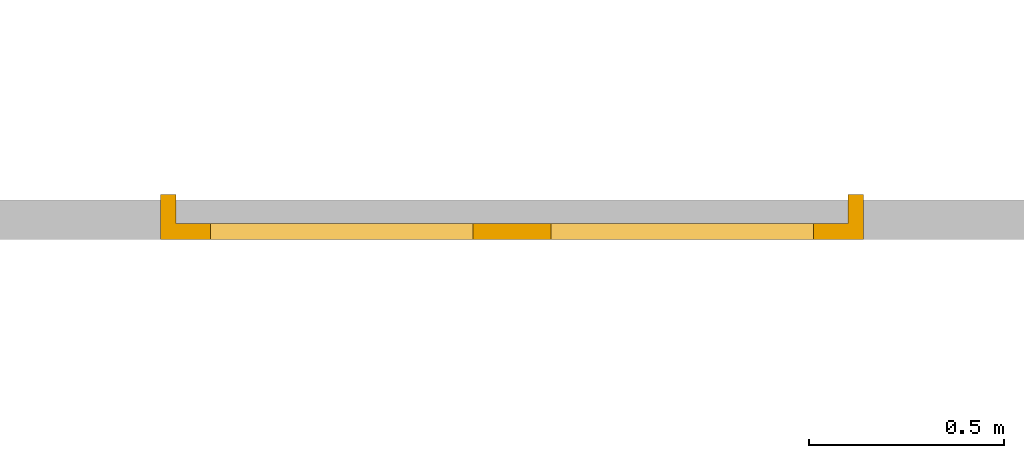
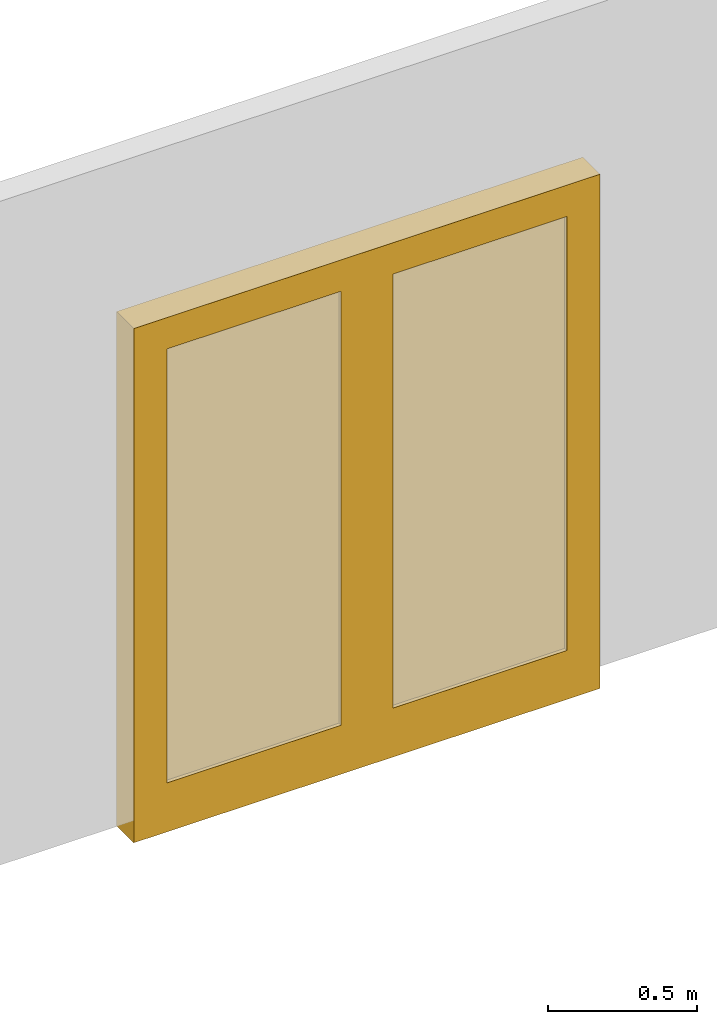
# One storey, part 6 of 22: 1 door.
"""IFC2X3 building model written with IfcOpenShell, lengths in millimetres."""

import ifcopenshell
import ifcopenshell.guid

model = None  # the IFC model being written
_history = None  # IfcOwnerHistory: only IFC2X3 demands one
_inside = {}  # id of a spatial element -> (the spatial element, [elements in it])
_under = {}  # id of a project, library or spatial element -> (it, [spatial elements below it])
_declared = {}  # id of a project -> (the project, [libraries it declares])
_typed = {}  # id of a type object -> (the type object, [elements of that type])
_made_of = {}  # id of a material, layer set ... -> (it, [elements and type objects made of it])


def new_model(schema):
    """Start an empty IFC model of exactly this schema.

    Asked for "IFC4X3", IfcOpenShell would pick the latest addendum, in which some entities
    have other attributes; the version numbers below select the first issue.
    IFC2X3 requires an IfcOwnerHistory on every rooted entity: one is made here for all.
    """
    global model, _history
    if schema == "IFC4X3":
        model = ifcopenshell.file(schema_version=(4, 3, 0, 0))
    else:
        model = ifcopenshell.file(schema=schema)
    _inside.clear()
    _under.clear()
    _declared.clear()
    _typed.clear()
    _made_of.clear()
    _history = None
    if model.schema == "IFC2X3":
        org = make("IfcOrganization", Name="unknown")
        user = make(
            "IfcPersonAndOrganization",
            ThePerson=make("IfcPerson", FamilyName="unknown"),
            TheOrganization=org,
        )
        app = make(
            "IfcApplication",
            ApplicationDeveloper=org,
            Version="unknown",
            ApplicationFullName="unknown",
            ApplicationIdentifier="unknown",
        )
        _history = make(
            "IfcOwnerHistory",
            OwningUser=user,
            OwningApplication=app,
            ChangeAction="ADDED",
            CreationDate=0,
        )
    return model


def make(cls, **values):
    """One entity of the class cls with the attributes given. An attribute that is None is left unset."""
    return model.create_entity(
        cls, **{name: value for name, value in values.items() if value is not None}
    )


def entity(cls, *values):
    """Any entity or typed value of the class cls, its attributes in the order of the schema. None: left unset."""
    e = model.create_entity(cls)
    for i, value in enumerate(values):
        if value is not None:
            e[i] = value
    return e


def rooted(cls, **values):
    """An entity with a GlobalId (a new one), such as an element, a storey or a relation."""
    return make(cls, GlobalId=ifcopenshell.guid.new(), OwnerHistory=_history, **values)


def si_unit(unit_type, name, prefix=None):
    """IfcSIUnit, for example si_unit("LENGTHUNIT", "METRE", prefix="MILLI")."""
    return make("IfcSIUnit", UnitType=unit_type, Prefix=prefix, Name=name)


def converted_unit(unit_type, name, factor, base, dimensions=None, offset=None):
    """IfcConversionBasedUnit, such as the inch: factor (a typed value) times the base unit."""
    return make(
        "IfcConversionBasedUnit"
        if offset is None
        else "IfcConversionBasedUnitWithOffset",
        ConversionOffset=offset,
        Dimensions=None
        if dimensions is None
        else entity("IfcDimensionalExponents", *dimensions),
        UnitType=unit_type,
        Name=name,
        ConversionFactor=make(
            "IfcMeasureWithUnit", ValueComponent=factor, UnitComponent=base
        ),
    )


def derived_unit(unit_type, elements):
    """IfcDerivedUnit: a product of units, each with its exponent."""
    return make(
        "IfcDerivedUnit",
        Elements=[
            make("IfcDerivedUnitElement", Unit=unit, Exponent=power)
            for unit, power in elements
        ],
        UnitType=unit_type,
    )


def assignment(units):
    """IfcUnitAssignment: the units of a project."""
    return None if units is None else make("IfcUnitAssignment", Units=units)


def point(xyz):
    """IfcCartesianPoint."""
    return None if xyz is None else make("IfcCartesianPoint", Coordinates=xyz)


def direction(xyz):
    """IfcDirection."""
    return None if xyz is None else make("IfcDirection", DirectionRatios=xyz)


def frame(location, z_axis=None, x_axis=None):
    """IfcAxis2Placement3D, a coordinate frame: its origin and axes. An axis left out is left unset."""
    return make(
        "IfcAxis2Placement3D",
        Location=point(location),
        Axis=direction(z_axis),
        RefDirection=direction(x_axis),
    )


def origin():
    """The frame at (0, 0, 0) with its axes left unset."""
    return frame((0.0, 0.0, 0.0))


def place(relative_to, where):
    """IfcLocalPlacement: puts the frame where relative to a parent placement (None: the world)."""
    return make(
        "IfcLocalPlacement", PlacementRelTo=relative_to, RelativePlacement=where
    )


def context(
    kind, dimensions, precision=None, world=None, true_north=None, identifier=None
):
    """IfcGeometricRepresentationContext, for example the 3D "Model" context."""
    return make(
        "IfcGeometricRepresentationContext",
        ContextIdentifier=identifier,
        ContextType=kind,
        CoordinateSpaceDimension=dimensions,
        Precision=precision,
        WorldCoordinateSystem=world,
        TrueNorth=true_north,
    )


def subcontext(parent, identifier, kind, view, scale=None):
    """IfcGeometricRepresentationSubContext, for example "Body" below "Model"."""
    return make(
        "IfcGeometricRepresentationSubContext",
        ContextIdentifier=identifier,
        ContextType=kind,
        ParentContext=parent,
        TargetScale=scale,
        TargetView=view,
    )


def project(units=None, contexts=None):
    """IfcProject with its units and contexts."""
    return rooted(
        "IfcProject",
        Name="project",
        RepresentationContexts=contexts,
        UnitsInContext=assignment(units),
    )


def spatial(cls, under=None, at=None, **own):
    """A site, building, storey or space (cls), placed at a placement, below another one or the project."""
    s = rooted(cls, ObjectPlacement=at, **own)
    if under is not None:
        _under.setdefault(under.id(), (under, []))[1].append(s)
    return s


def faces_of(points, faces, orient=None, outer=None):
    """IfcFace entities. A face is a list of loops; a loop is a list of indices into points, from 0.

    orient and outer hold one flag for each loop. By default every Orientation is true, the
    first loop of a face is its IfcFaceOuterBound and the others are IfcFaceBound.
    """
    made = []
    for i, loops in enumerate(faces):
        bounds = []
        for j, loop in enumerate(loops):
            is_outer = j == 0 if outer is None else outer[i][j]
            bounds.append(
                make(
                    "IfcFaceOuterBound" if is_outer else "IfcFaceBound",
                    Bound=make("IfcPolyLoop", Polygon=[points[k] for k in loop]),
                    Orientation=True if orient is None else orient[i][j],
                )
            )
        made.append(make("IfcFace", Bounds=bounds))
    return made


def face_set(faces, orient=None, outer=None):
    """The faces of one IfcConnectedFaceSet. surface_model builds it on its shared points."""
    return ("IfcConnectedFaceSet", faces, orient, outer)


def surface_model(cls, points, shells):
    """IfcFaceBasedSurfaceModel or IfcShellBasedSurfaceModel (cls): surfaces that need not close."""
    shared = [point(p) for p in points]
    made = [make(c, CfsFaces=faces_of(shared, fs, o, b)) for c, fs, o, b in shells]
    if cls == "IfcFaceBasedSurfaceModel":
        return make(cls, FbsmFaces=made)
    return make(cls, SbsmBoundary=made)


def shape(context_of_items, identifier, shape_type, items):
    """IfcShapeRepresentation: the items that make up one representation, for example the "Body"."""
    return make(
        "IfcShapeRepresentation",
        ContextOfItems=context_of_items,
        RepresentationIdentifier=identifier,
        RepresentationType=shape_type,
        Items=items,
    )


def source(mapping_origin, context_of_items, identifier, shape_type, items):
    """IfcRepresentationMap: a shape defined once, which mapped items show again and again."""
    return make(
        "IfcRepresentationMap",
        MappingOrigin=mapping_origin,
        MappedRepresentation=shape(context_of_items, identifier, shape_type, items),
    )


def transform(
    local_origin,
    x_axis=None,
    y_axis=None,
    z_axis=None,
    scale=None,
    scale2=None,
    scale3=None,
    uniform=True,
):
    """IfcCartesianTransformationOperator3D, or its non-uniform kind. x_axis, y_axis, z_axis: its Axis1, 2, 3."""
    if uniform:
        return make(
            "IfcCartesianTransformationOperator3D",
            Axis1=direction(x_axis),
            Axis2=direction(y_axis),
            LocalOrigin=point(local_origin),
            Scale=scale,
            Axis3=direction(z_axis),
        )
    return make(
        "IfcCartesianTransformationOperator3DnonUniform",
        Axis1=direction(x_axis),
        Axis2=direction(y_axis),
        LocalOrigin=point(local_origin),
        Scale=scale,
        Axis3=direction(z_axis),
        Scale2=scale2,
        Scale3=scale3,
    )


def mapped(mapping_source, mapping_target):
    """IfcMappedItem: shows the shape of a source again, moved by a transform."""
    return make(
        "IfcMappedItem", MappingSource=mapping_source, MappingTarget=mapping_target
    )


def material(Name=None, Category=None):
    """IfcMaterial."""
    return make("IfcMaterial", Name=Name, Category=Category)


def material_list(materials):
    """IfcMaterialList."""
    return make("IfcMaterialList", Materials=materials)


def made_of(thing, what):
    """Note that an element or type object is made of a material, layer set ...; save() writes the relation."""
    if what is not None:
        _made_of.setdefault(what.id(), (what, []))[1].append(thing)
    return thing


def type_object(cls, material=None, **own):
    """A type object (cls), such as IfcWallType, which elements share."""
    return made_of(rooted(cls, **own), material)


def type_shapes(of_type, sources):
    """Give a type object the sources (RepresentationMaps) that its elements show as mapped items."""
    of_type.RepresentationMaps = sources


def element(
    cls,
    number,
    at=None,
    inside=None,
    cuts=None,
    type_object=None,
    material=None,
    context=None,
    identifier="Body",
    shape_type=None,
    held_by="IfcProductDefinitionShape",
    body=None,
    shapes=None,
    **own,
):
    """One element of the class cls, such as IfcWall. Its Tag is "e" and its number.

    at: its placement. inside: the storey or other place that contains it. cuts: it is an
    opening in that element (IfcRelVoidsElement). A single representation is given by context,
    identifier, shape_type and body (its items); several are given by shapes. held_by: the class
    of the entity that holds the representations. save() writes the other relations.
    """
    e = rooted(cls, Tag="e%d" % number, ObjectPlacement=at, **own)
    if body is not None:
        shapes = [shape(context, identifier, shape_type, body)]
    if shapes is not None:
        e.Representation = make(held_by, Representations=shapes)
    if inside is not None:
        _inside.setdefault(inside.id(), (inside, []))[1].append(e)
    if cuts is not None:
        rooted(
            "IfcRelVoidsElement", RelatingBuildingElement=cuts, RelatedOpeningElement=e
        )
    if type_object is not None:
        _typed.setdefault(type_object.id(), (type_object, []))[1].append(e)
    return made_of(e, material)


def aggregate(whole, parts):
    """IfcRelAggregates: a whole, such as a stair, and the parts it consists of."""
    return rooted("IfcRelAggregates", RelatingObject=whole, RelatedObjects=parts)


def save(model, path):
    """Write the relations noted so far, then the file.

    IfcRelAggregates (storeys below a building ...), IfcRelContainedInSpatialStructure (elements
    in a storey), IfcRelDefinesByType, IfcRelAssociatesMaterial and IfcRelDeclares: one each for
    every whole, place, type object, material and project.
    """
    for whole, parts in _under.values():
        aggregate(whole, parts)
    for where, things in _inside.values():
        rooted(
            "IfcRelContainedInSpatialStructure",
            RelatedElements=things,
            RelatingStructure=where,
        )
    for kind, things in _typed.values():
        rooted("IfcRelDefinesByType", RelatedObjects=things, RelatingType=kind)
    for what, things in _made_of.values():
        rooted("IfcRelAssociatesMaterial", RelatedObjects=things, RelatingMaterial=what)
    for by, libraries in _declared.values():
        rooted("IfcRelDeclares", RelatingContext=by, RelatedDefinitions=libraries)
    model.write(path)


model = new_model("IFC2X3")

# Units and contexts
model_context = context("Model", 3, precision=0.01, world=origin(), true_north=direction((6.12303176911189e-17, 1.0)))
body_context = subcontext(model_context, "Body", "Model", "MODEL_VIEW")
ifc_project = project(units=[si_unit("LENGTHUNIT", "METRE", prefix="MILLI"), si_unit("AREAUNIT", "SQUARE_METRE"), si_unit("VOLUMEUNIT", "CUBIC_METRE"), converted_unit("PLANEANGLEUNIT", "DEGREE", entity("IfcRatioMeasure", 0.0174532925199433), si_unit("PLANEANGLEUNIT", "RADIAN"), dimensions=[0, 0, 0, 0, 0, 0, 0]), si_unit("MASSUNIT", "GRAM", prefix="KILO"), derived_unit("MASSDENSITYUNIT", [(si_unit("MASSUNIT", "GRAM", prefix="KILO"), 1), (si_unit("LENGTHUNIT", "METRE"), -3)]), si_unit("TIMEUNIT", "SECOND"), si_unit("FREQUENCYUNIT", "HERTZ"), si_unit("THERMODYNAMICTEMPERATUREUNIT", "DEGREE_CELSIUS"), derived_unit("THERMALTRANSMITTANCEUNIT", [(si_unit("MASSUNIT", "GRAM", prefix="KILO"), 1), (si_unit("THERMODYNAMICTEMPERATUREUNIT", "KELVIN"), -1), (si_unit("TIMEUNIT", "SECOND"), -3)]), derived_unit("VOLUMETRICFLOWRATEUNIT", [(si_unit("LENGTHUNIT", "METRE"), 3), (si_unit("TIMEUNIT", "SECOND"), -1)]), si_unit("ELECTRICCURRENTUNIT", "AMPERE"), si_unit("ELECTRICVOLTAGEUNIT", "VOLT"), si_unit("POWERUNIT", "WATT"), si_unit("FORCEUNIT", "NEWTON", prefix="KILO"), si_unit("ILLUMINANCEUNIT", "LUX"), si_unit("LUMINOUSFLUXUNIT", "LUMEN"), si_unit("LUMINOUSINTENSITYUNIT", "CANDELA"), derived_unit("USERDEFINED", [(si_unit("MASSUNIT", "GRAM", prefix="KILO"), -1), (si_unit("LENGTHUNIT", "METRE"), -2), (si_unit("TIMEUNIT", "SECOND"), 3), (si_unit("LUMINOUSFLUXUNIT", "LUMEN"), 1)]), derived_unit("LINEARVELOCITYUNIT", [(si_unit("LENGTHUNIT", "METRE"), 1), (si_unit("TIMEUNIT", "SECOND"), -1)]), si_unit("PRESSUREUNIT", "PASCAL"), derived_unit("USERDEFINED", [(si_unit("LENGTHUNIT", "METRE"), -2), (si_unit("MASSUNIT", "GRAM", prefix="KILO"), 1), (si_unit("TIMEUNIT", "SECOND"), -2)])], contexts=[model_context])

# Site, building, storey
site_placement = place(None, origin())
site = spatial("IfcSite", under=ifc_project, at=site_placement, Name="Default", CompositionType="ELEMENT")
building_placement = place(site_placement, origin())
building = spatial("IfcBuilding", under=site, at=building_placement, CompositionType="ELEMENT")
storey_placement = place(building_placement, frame((0.0, 0.0, -3000.0)))
storey = spatial("IfcBuildingStorey", under=building, at=storey_placement, Name="-2. Story", CompositionType="ELEMENT", Elevation=-3000.0)

# Door
ifc_material_1 = material(Name="Paint - Titanium White")
ifc_material_2 = material(Name="Glass - Clear Fast")
ifc_material_list_1 = material_list([ifc_material_1, ifc_material_2])
ifc_material_list_2 = material_list([ifc_material_1, ifc_material_2])
door_style = type_object("IfcDoorStyle", Name="DOO - 002", ConstructionType="NOTDEFINED", OperationType="DOUBLE_DOOR_SINGLE_SWING", ParameterTakesPrecedence=False, Sizeable=False, material=ifc_material_list_2)
shared_shape = source(origin(), body_context, "Body", "SurfaceModel", [
    surface_model("IfcFaceBasedSurfaceModel", [(61110.9898575, 74543.1569014, -3000.0), (61110.9898575, 74543.1569014, -940.0), (61110.9898575, 74618.1569014, -940.0), (61110.9898575, 74618.1569014, -3000.0), (61122.9898575, 74543.1569014, -940.0), (61110.9898575, 74543.1569014, -940.0), (61110.9898575, 74543.1569014, -3000.0), (61122.9898575, 74543.1569014, -3000.0), (61122.9898575, 74543.1569014, -940.0), (61122.9898575, 74503.1569014, -940.0), (61150.9898575, 74503.1569014, -940.0), (61150.9898575, 74618.1569014, -940.0), (61110.9898575, 74618.1569014, -940.0), (61110.9898575, 74543.1569014, -940.0), (61110.9898575, 74618.1569014, -3000.0), (61110.9898575, 74618.1569014, -940.0), (61150.9898575, 74618.1569014, -940.0), (61150.9898575, 74618.1569014, -3000.0), (61122.9898575, 74543.1569014, -3000.0), (61110.9898575, 74543.1569014, -3000.0), (61110.9898575, 74618.1569014, -3000.0), (61150.9898575, 74618.1569014, -3000.0), (61150.9898575, 74503.1569014, -3000.0), (61122.9898575, 74503.1569014, -3000.0), (61122.9898575, 74503.1569014, -940.0), (61122.9898575, 74543.1569014, -940.0), (61122.9898575, 74543.1569014, -3000.0), (61122.9898575, 74503.1569014, -3000.0), (61122.9898575, 74503.1569014, -940.0), (61122.9898575, 74503.1569014, -3000.0), (61150.9898575, 74503.1569014, -3000.0), (61150.9898575, 74503.1569014, -940.0), (61150.9898575, 74503.1569014, -3000.0), (61150.9898575, 74618.1569014, -3000.0), (61150.9898575, 74618.1569014, -940.0), (61150.9898575, 74503.1569014, -940.0), (59378.9898575, 74543.1569014, -940.0), (59390.9898575, 74543.1569014, -940.0), (59390.9898575, 74618.1569014, -940.0), (59350.9898575, 74618.1569014, -940.0), (59350.9898575, 74503.1569014, -940.0), (59378.9898575, 74503.1569014, -940.0), (59390.9898575, 74543.1569014, -940.0), (59378.9898575, 74543.1569014, -940.0), (59378.9898575, 74543.1569014, -3000.0), (59390.9898575, 74543.1569014, -3000.0), (59390.9898575, 74543.1569014, -940.0), (59390.9898575, 74543.1569014, -3000.0), (59390.9898575, 74618.1569014, -3000.0), (59390.9898575, 74618.1569014, -940.0), (59350.9898575, 74618.1569014, -940.0), (59390.9898575, 74618.1569014, -940.0), (59390.9898575, 74618.1569014, -3000.0), (59350.9898575, 74618.1569014, -3000.0), (59350.9898575, 74503.1569014, -940.0), (59350.9898575, 74618.1569014, -940.0), (59350.9898575, 74618.1569014, -3000.0), (59350.9898575, 74503.1569014, -3000.0), (59378.9898575, 74503.1569014, -3000.0), (59378.9898575, 74503.1569014, -940.0), (59350.9898575, 74503.1569014, -940.0), (59350.9898575, 74503.1569014, -3000.0), (59378.9898575, 74543.1569014, -940.0), (59378.9898575, 74503.1569014, -940.0), (59378.9898575, 74503.1569014, -3000.0), (59378.9898575, 74543.1569014, -3000.0), (59378.9898575, 74543.1569014, -3000.0), (59378.9898575, 74503.1569014, -3000.0), (59350.9898575, 74503.1569014, -3000.0), (59350.9898575, 74618.1569014, -3000.0), (59390.9898575, 74618.1569014, -3000.0), (59390.9898575, 74543.1569014, -3000.0), (61122.9898575, 74503.1569014, -928.0), (61122.9898575, 74503.1569014, -940.0), (61150.9898575, 74503.1569014, -940.0), (61150.9898575, 74503.1569014, -900.0), (59350.9898575, 74503.1569014, -900.0), (59350.9898575, 74503.1569014, -940.0), (59378.9898575, 74503.1569014, -940.0), (59378.9898575, 74503.1569014, -928.0), (61122.9898575, 74503.1569014, -940.0), (61122.9898575, 74503.1569014, -928.0), (61122.9898575, 74543.1569014, -928.0), (61122.9898575, 74543.1569014, -940.0), (61122.9898575, 74543.1569014, -940.0), (61110.9898575, 74543.1569014, -940.0), (61110.9898575, 74618.1569014, -940.0), (61150.9898575, 74618.1569014, -940.0), (61150.9898575, 74503.1569014, -940.0), (61122.9898575, 74503.1569014, -940.0), (61150.9898575, 74503.1569014, -940.0), (61150.9898575, 74618.1569014, -940.0), (61150.9898575, 74618.1569014, -900.0), (61150.9898575, 74503.1569014, -900.0), (61150.9898575, 74503.1569014, -900.0), (61150.9898575, 74618.1569014, -900.0), (59350.9898575, 74618.1569014, -900.0), (59350.9898575, 74503.1569014, -900.0), (59350.9898575, 74503.1569014, -900.0), (59350.9898575, 74618.1569014, -900.0), (59350.9898575, 74618.1569014, -940.0), (59350.9898575, 74503.1569014, -940.0), (59378.9898575, 74543.1569014, -940.0), (59378.9898575, 74503.1569014, -940.0), (59350.9898575, 74503.1569014, -940.0), (59350.9898575, 74618.1569014, -940.0), (59390.9898575, 74618.1569014, -940.0), (59390.9898575, 74543.1569014, -940.0), (59378.9898575, 74503.1569014, -928.0), (59378.9898575, 74503.1569014, -940.0), (59378.9898575, 74543.1569014, -940.0), (59378.9898575, 74543.1569014, -928.0), (61122.9898575, 74503.1569014, -928.0), (59378.9898575, 74503.1569014, -928.0), (59378.9898575, 74543.1569014, -928.0), (61122.9898575, 74543.1569014, -928.0), (59378.9898575, 74543.1569014, -940.0), (59390.9898575, 74543.1569014, -940.0), (61110.9898575, 74543.1569014, -940.0), (61122.9898575, 74543.1569014, -940.0), (61122.9898575, 74543.1569014, -928.0), (59378.9898575, 74543.1569014, -928.0), (61110.9898575, 74543.1569014, -940.0), (59390.9898575, 74543.1569014, -940.0), (59390.9898575, 74618.1569014, -940.0), (61110.9898575, 74618.1569014, -940.0), (59390.9898575, 74618.1569014, -940.0), (59350.9898575, 74618.1569014, -940.0), (59350.9898575, 74618.1569014, -900.0), (61150.9898575, 74618.1569014, -900.0), (61150.9898575, 74618.1569014, -940.0), (61110.9898575, 74618.1569014, -940.0), (59378.9898575, 74503.1569014, -2800.0), (59378.9898575, 74543.1569014, -2800.0), (59478.9898575, 74543.1569014, -2800.0), (59478.9898575, 74503.1569014, -2800.0), (59378.9898575, 74503.1569014, -1028.0), (59378.9898575, 74543.1569014, -1028.0), (59378.9898575, 74543.1569014, -2800.0), (59378.9898575, 74503.1569014, -2800.0), (59378.9898575, 74543.1569014, -2800.0), (59378.9898575, 74543.1569014, -1028.0), (59478.9898575, 74543.1569014, -1028.0), (59478.9898575, 74543.1569014, -2800.0), (59478.9898575, 74503.1569014, -2800.0), (59478.9898575, 74543.1569014, -2800.0), (59478.9898575, 74543.1569014, -1028.0), (59478.9898575, 74503.1569014, -1028.0), (59378.9898575, 74503.1569014, -2800.0), (59478.9898575, 74503.1569014, -2800.0), (59478.9898575, 74503.1569014, -1028.0), (59378.9898575, 74503.1569014, -1028.0), (59478.9898575, 74503.1569014, -1028.0), (59478.9898575, 74543.1569014, -1028.0), (59378.9898575, 74543.1569014, -1028.0), (59378.9898575, 74503.1569014, -1028.0), (60250.9898575, 74503.1569014, -2800.0), (60250.9898575, 74543.1569014, -2800.0), (60250.9898575, 74543.1569014, -1028.0), (60250.9898575, 74503.1569014, -1028.0), (60150.9898575, 74503.1569014, -2800.0), (60150.9898575, 74543.1569014, -2800.0), (60250.9898575, 74543.1569014, -2800.0), (60250.9898575, 74503.1569014, -2800.0), (60250.9898575, 74543.1569014, -2800.0), (60150.9898575, 74543.1569014, -2800.0), (60150.9898575, 74543.1569014, -1028.0), (60250.9898575, 74543.1569014, -1028.0), (60250.9898575, 74503.1569014, -1028.0), (60250.9898575, 74543.1569014, -1028.0), (60150.9898575, 74543.1569014, -1028.0), (60150.9898575, 74503.1569014, -1028.0), (60250.9898575, 74503.1569014, -2800.0), (60250.9898575, 74503.1569014, -1028.0), (60150.9898575, 74503.1569014, -1028.0), (60150.9898575, 74503.1569014, -2800.0), (60150.9898575, 74503.1569014, -1028.0), (60150.9898575, 74543.1569014, -1028.0), (60150.9898575, 74543.1569014, -2800.0), (60150.9898575, 74503.1569014, -2800.0), (59378.9898575, 74503.1569014, -3000.0), (59378.9898575, 74543.1569014, -3000.0), (60250.9898575, 74543.1569014, -3000.0), (60250.9898575, 74503.1569014, -3000.0), (59378.9898575, 74503.1569014, -2800.0), (59378.9898575, 74543.1569014, -2800.0), (59378.9898575, 74543.1569014, -3000.0), (59378.9898575, 74503.1569014, -3000.0), (59378.9898575, 74543.1569014, -3000.0), (59378.9898575, 74543.1569014, -2800.0), (59478.9898575, 74543.1569014, -2800.0), (60150.9898575, 74543.1569014, -2800.0), (60250.9898575, 74543.1569014, -2800.0), (60250.9898575, 74543.1569014, -3000.0), (60250.9898575, 74503.1569014, -3000.0), (60250.9898575, 74543.1569014, -3000.0), (60250.9898575, 74543.1569014, -2800.0), (60250.9898575, 74503.1569014, -2800.0), (59378.9898575, 74503.1569014, -3000.0), (60250.9898575, 74503.1569014, -3000.0), (60250.9898575, 74503.1569014, -2800.0), (60150.9898575, 74503.1569014, -2800.0), (59478.9898575, 74503.1569014, -2800.0), (59378.9898575, 74503.1569014, -2800.0), (59478.9898575, 74503.1569014, -2800.0), (59478.9898575, 74543.1569014, -2800.0), (59378.9898575, 74543.1569014, -2800.0), (59378.9898575, 74503.1569014, -2800.0), (60150.9898575, 74503.1569014, -2800.0), (60150.9898575, 74543.1569014, -2800.0), (59478.9898575, 74543.1569014, -2800.0), (59478.9898575, 74503.1569014, -2800.0), (60250.9898575, 74503.1569014, -2800.0), (60250.9898575, 74543.1569014, -2800.0), (60150.9898575, 74543.1569014, -2800.0), (60150.9898575, 74503.1569014, -2800.0), (59378.9898575, 74503.1569014, -928.0), (59378.9898575, 74543.1569014, -928.0), (59378.9898575, 74543.1569014, -1028.0), (59378.9898575, 74503.1569014, -1028.0), (60250.9898575, 74503.1569014, -928.0), (60250.9898575, 74543.1569014, -928.0), (59378.9898575, 74543.1569014, -928.0), (59378.9898575, 74503.1569014, -928.0), (59378.9898575, 74543.1569014, -928.0), (60250.9898575, 74543.1569014, -928.0), (60250.9898575, 74543.1569014, -1028.0), (60150.9898575, 74543.1569014, -1028.0), (59478.9898575, 74543.1569014, -1028.0), (59378.9898575, 74543.1569014, -1028.0), (59378.9898575, 74503.1569014, -1028.0), (59378.9898575, 74543.1569014, -1028.0), (59478.9898575, 74543.1569014, -1028.0), (59478.9898575, 74503.1569014, -1028.0), (59378.9898575, 74503.1569014, -928.0), (59378.9898575, 74503.1569014, -1028.0), (59478.9898575, 74503.1569014, -1028.0), (60150.9898575, 74503.1569014, -1028.0), (60250.9898575, 74503.1569014, -1028.0), (60250.9898575, 74503.1569014, -928.0), (60250.9898575, 74503.1569014, -1028.0), (60250.9898575, 74543.1569014, -1028.0), (60250.9898575, 74543.1569014, -928.0), (60250.9898575, 74503.1569014, -928.0), (60150.9898575, 74503.1569014, -1028.0), (60150.9898575, 74543.1569014, -1028.0), (60250.9898575, 74543.1569014, -1028.0), (60250.9898575, 74503.1569014, -1028.0), (59478.9898575, 74503.1569014, -1028.0), (59478.9898575, 74543.1569014, -1028.0), (60150.9898575, 74543.1569014, -1028.0), (60150.9898575, 74503.1569014, -1028.0), (61122.9898575, 74503.1569014, -2800.0), (61022.9898575, 74503.1569014, -2800.0), (61022.9898575, 74543.1569014, -2800.0), (61122.9898575, 74543.1569014, -2800.0), (61122.9898575, 74503.1569014, -2800.0), (61122.9898575, 74503.1569014, -1028.0), (61022.9898575, 74503.1569014, -1028.0), (61022.9898575, 74503.1569014, -2800.0), (61022.9898575, 74503.1569014, -2800.0), (61022.9898575, 74503.1569014, -1028.0), (61022.9898575, 74543.1569014, -1028.0), (61022.9898575, 74543.1569014, -2800.0), (61122.9898575, 74543.1569014, -2800.0), (61022.9898575, 74543.1569014, -2800.0), (61022.9898575, 74543.1569014, -1028.0), (61122.9898575, 74543.1569014, -1028.0), (61122.9898575, 74503.1569014, -1028.0), (61122.9898575, 74503.1569014, -2800.0), (61122.9898575, 74543.1569014, -2800.0), (61122.9898575, 74543.1569014, -1028.0), (61022.9898575, 74503.1569014, -1028.0), (61122.9898575, 74503.1569014, -1028.0), (61122.9898575, 74543.1569014, -1028.0), (61022.9898575, 74543.1569014, -1028.0), (60250.9898575, 74503.1569014, -2800.0), (60250.9898575, 74503.1569014, -1028.0), (60250.9898575, 74543.1569014, -1028.0), (60250.9898575, 74543.1569014, -2800.0), (60250.9898575, 74503.1569014, -2800.0), (60350.9898575, 74503.1569014, -2800.0), (60350.9898575, 74503.1569014, -1028.0), (60250.9898575, 74503.1569014, -1028.0), (60250.9898575, 74503.1569014, -1028.0), (60350.9898575, 74503.1569014, -1028.0), (60350.9898575, 74543.1569014, -1028.0), (60250.9898575, 74543.1569014, -1028.0), (60250.9898575, 74543.1569014, -2800.0), (60250.9898575, 74543.1569014, -1028.0), (60350.9898575, 74543.1569014, -1028.0), (60350.9898575, 74543.1569014, -2800.0), (60350.9898575, 74503.1569014, -2800.0), (60250.9898575, 74503.1569014, -2800.0), (60250.9898575, 74543.1569014, -2800.0), (60350.9898575, 74543.1569014, -2800.0), (60350.9898575, 74503.1569014, -1028.0), (60350.9898575, 74503.1569014, -2800.0), (60350.9898575, 74543.1569014, -2800.0), (60350.9898575, 74543.1569014, -1028.0), (61122.9898575, 74503.1569014, -3000.0), (60250.9898575, 74503.1569014, -3000.0), (60250.9898575, 74543.1569014, -3000.0), (61122.9898575, 74543.1569014, -3000.0), (61122.9898575, 74503.1569014, -3000.0), (61122.9898575, 74503.1569014, -2800.0), (61022.9898575, 74503.1569014, -2800.0), (60350.9898575, 74503.1569014, -2800.0), (60250.9898575, 74503.1569014, -2800.0), (60250.9898575, 74503.1569014, -3000.0), (60250.9898575, 74503.1569014, -3000.0), (60250.9898575, 74503.1569014, -2800.0), (60250.9898575, 74543.1569014, -2800.0), (60250.9898575, 74543.1569014, -3000.0), (61122.9898575, 74543.1569014, -3000.0), (60250.9898575, 74543.1569014, -3000.0), (60250.9898575, 74543.1569014, -2800.0), (60350.9898575, 74543.1569014, -2800.0), (61022.9898575, 74543.1569014, -2800.0), (61122.9898575, 74543.1569014, -2800.0), (61122.9898575, 74503.1569014, -2800.0), (61122.9898575, 74503.1569014, -3000.0), (61122.9898575, 74543.1569014, -3000.0), (61122.9898575, 74543.1569014, -2800.0), (61022.9898575, 74503.1569014, -2800.0), (61122.9898575, 74503.1569014, -2800.0), (61122.9898575, 74543.1569014, -2800.0), (61022.9898575, 74543.1569014, -2800.0), (60350.9898575, 74503.1569014, -2800.0), (61022.9898575, 74503.1569014, -2800.0), (61022.9898575, 74543.1569014, -2800.0), (60350.9898575, 74543.1569014, -2800.0), (60250.9898575, 74503.1569014, -2800.0), (60350.9898575, 74503.1569014, -2800.0), (60350.9898575, 74543.1569014, -2800.0), (60250.9898575, 74543.1569014, -2800.0), (61122.9898575, 74503.1569014, -928.0), (61122.9898575, 74503.1569014, -1028.0), (61122.9898575, 74543.1569014, -1028.0), (61122.9898575, 74543.1569014, -928.0), (61122.9898575, 74503.1569014, -928.0), (60250.9898575, 74503.1569014, -928.0), (60250.9898575, 74503.1569014, -1028.0), (60350.9898575, 74503.1569014, -1028.0), (61022.9898575, 74503.1569014, -1028.0), (61122.9898575, 74503.1569014, -1028.0), (61122.9898575, 74503.1569014, -1028.0), (61022.9898575, 74503.1569014, -1028.0), (61022.9898575, 74543.1569014, -1028.0), (61122.9898575, 74543.1569014, -1028.0), (61122.9898575, 74543.1569014, -928.0), (61122.9898575, 74543.1569014, -1028.0), (61022.9898575, 74543.1569014, -1028.0), (60350.9898575, 74543.1569014, -1028.0), (60250.9898575, 74543.1569014, -1028.0), (60250.9898575, 74543.1569014, -928.0), (60250.9898575, 74503.1569014, -928.0), (61122.9898575, 74503.1569014, -928.0), (61122.9898575, 74543.1569014, -928.0), (60250.9898575, 74543.1569014, -928.0), (60250.9898575, 74503.1569014, -1028.0), (60250.9898575, 74503.1569014, -928.0), (60250.9898575, 74543.1569014, -928.0), (60250.9898575, 74543.1569014, -1028.0), (60350.9898575, 74503.1569014, -1028.0), (60250.9898575, 74503.1569014, -1028.0), (60250.9898575, 74543.1569014, -1028.0), (60350.9898575, 74543.1569014, -1028.0), (61022.9898575, 74503.1569014, -1028.0), (60350.9898575, 74503.1569014, -1028.0), (60350.9898575, 74543.1569014, -1028.0), (61022.9898575, 74543.1569014, -1028.0)], [face_set([[[0, 1, 2, 3]]]), face_set([[[4, 5, 6, 7]]]), face_set([[[8, 9, 10, 11, 12, 13]]]), face_set([[[14, 15, 16, 17]]]), face_set([[[18, 19, 20, 21, 22, 23]]]), face_set([[[24, 25, 26, 27]]]), face_set([[[28, 29, 30, 31]]]), face_set([[[32, 33, 34, 35]]]), face_set([[[36, 37, 38, 39, 40, 41]]]), face_set([[[42, 43, 44, 45]]]), face_set([[[46, 47, 48, 49]]]), face_set([[[50, 51, 52, 53]]]), face_set([[[54, 55, 56, 57]]]), face_set([[[58, 59, 60, 61]]]), face_set([[[62, 63, 64, 65]]]), face_set([[[66, 67, 68, 69, 70, 71]]]), face_set([[[72, 73, 74, 75, 76, 77, 78, 79]]]), face_set([[[80, 81, 82, 83]]]), face_set([[[84, 85, 86, 87, 88, 89]]]), face_set([[[90, 91, 92, 93]]]), face_set([[[94, 95, 96, 97]]]), face_set([[[98, 99, 100, 101]]]), face_set([[[102, 103, 104, 105, 106, 107]]]), face_set([[[108, 109, 110, 111]]]), face_set([[[112, 113, 114, 115]]]), face_set([[[116, 117, 118, 119, 120, 121]]]), face_set([[[122, 123, 124, 125]]]), face_set([[[126, 127, 128, 129, 130, 131]]]), face_set([[[132, 133, 134, 135]]]), face_set([[[136, 137, 138, 139]]]), face_set([[[140, 141, 142, 143]]]), face_set([[[144, 145, 146, 147]]]), face_set([[[148, 149, 150, 151]]]), face_set([[[152, 153, 154, 155]]]), face_set([[[156, 157, 158, 159]]]), face_set([[[160, 161, 162, 163]]]), face_set([[[164, 165, 166, 167]]]), face_set([[[168, 169, 170, 171]]]), face_set([[[172, 173, 174, 175]]]), face_set([[[176, 177, 178, 179]]]), face_set([[[180, 181, 182, 183]]]), face_set([[[184, 185, 186, 187]]]), face_set([[[188, 189, 190, 191, 192, 193]]]), face_set([[[194, 195, 196, 197]]]), face_set([[[198, 199, 200, 201, 202, 203]]]), face_set([[[204, 205, 206, 207]]]), face_set([[[208, 209, 210, 211]]]), face_set([[[212, 213, 214, 215]]]), face_set([[[216, 217, 218, 219]]]), face_set([[[220, 221, 222, 223]]]), face_set([[[224, 225, 226, 227, 228, 229]]]), face_set([[[230, 231, 232, 233]]]), face_set([[[234, 235, 236, 237, 238, 239]]]), face_set([[[240, 241, 242, 243]]]), face_set([[[244, 245, 246, 247]]]), face_set([[[248, 249, 250, 251]]]), face_set([[[252, 253, 254, 255]]]), face_set([[[256, 257, 258, 259]]]), face_set([[[260, 261, 262, 263]]]), face_set([[[264, 265, 266, 267]]]), face_set([[[268, 269, 270, 271]]]), face_set([[[272, 273, 274, 275]]]), face_set([[[276, 277, 278, 279]]]), face_set([[[280, 281, 282, 283]]]), face_set([[[284, 285, 286, 287]]]), face_set([[[288, 289, 290, 291]]]), face_set([[[292, 293, 294, 295]]]), face_set([[[296, 297, 298, 299]]]), face_set([[[300, 301, 302, 303]]]), face_set([[[304, 305, 306, 307, 308, 309]]]), face_set([[[310, 311, 312, 313]]]), face_set([[[314, 315, 316, 317, 318, 319]]]), face_set([[[320, 321, 322, 323]]]), face_set([[[324, 325, 326, 327]]]), face_set([[[328, 329, 330, 331]]]), face_set([[[332, 333, 334, 335]]]), face_set([[[336, 337, 338, 339]]]), face_set([[[340, 341, 342, 343, 344, 345]]]), face_set([[[346, 347, 348, 349]]]), face_set([[[350, 351, 352, 353, 354, 355]]]), face_set([[[356, 357, 358, 359]]]), face_set([[[360, 361, 362, 363]]]), face_set([[[364, 365, 366, 367]]]), face_set([[[368, 369, 370, 371]]])]),
    surface_model("IfcFaceBasedSurfaceModel", [(59478.9898575, 74517.1569014, -2800.0), (60150.9898575, 74517.1569014, -2800.0), (60150.9898575, 74517.1569014, -1028.0), (59478.9898575, 74517.1569014, -1028.0), (59478.9898575, 74529.1569014, -2800.0), (59478.9898575, 74529.1569014, -1028.0), (60150.9898575, 74529.1569014, -1028.0), (60150.9898575, 74529.1569014, -2800.0), (61022.9898575, 74517.1569014, -2800.0), (61022.9898575, 74517.1569014, -1028.0), (60350.9898575, 74517.1569014, -1028.0), (60350.9898575, 74517.1569014, -2800.0), (61022.9898575, 74529.1569014, -2800.0), (60350.9898575, 74529.1569014, -2800.0), (60350.9898575, 74529.1569014, -1028.0), (61022.9898575, 74529.1569014, -1028.0)], [face_set([[[0, 1, 2, 3]]]), face_set([[[4, 5, 6, 7]]]), face_set([[[8, 9, 10, 11]]]), face_set([[[12, 13, 14, 15]]])]),
])
type_shapes(door_style, [shared_shape])
door_placement = place(storey_placement, frame((0.0, 0.0, 3000.0)))
element("IfcDoor", 1, at=door_placement, inside=storey, type_object=door_style, material=ifc_material_list_1, Name="DOO - 002 1459265 1459265:DOO - 002 1459265 1459265", ObjectType="DOO - 002 1459265 1459265:DOO - 002 1459265 1459265", OverallHeight=0.0, OverallWidth=1800.0, context=body_context, shape_type="MappedRepresentation", body=[
    mapped(shared_shape, transform((0.0, 0.0, 0.0), scale=1.0)),
])

save(model, "model.ifc")
